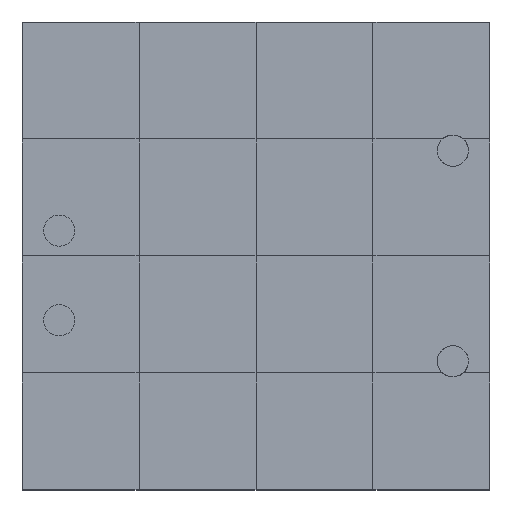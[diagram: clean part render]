
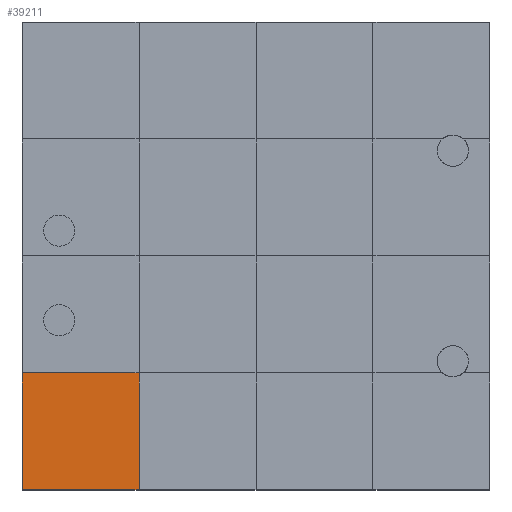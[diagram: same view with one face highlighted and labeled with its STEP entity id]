
A CAD part, top view. The second image highlights one B-rep face of the part: STEP entity #39211.
In plain terms, the highlighted planar face has unit normal (0, 0, 1).
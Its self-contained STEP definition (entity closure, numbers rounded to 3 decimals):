
#39022 = VERTEX_POINT('',#39023);
#39023 = CARTESIAN_POINT('',(0.,0.,1.5));
#39030 = PLANE('',#39031);
#39031 = AXIS2_PLACEMENT_3D('',#39032,#39033,#39034);
#39032 = CARTESIAN_POINT('',(0.,0.,0.));
#39033 = DIRECTION('',(1.,0.,-0.));
#39034 = DIRECTION('',(0.,0.,1.));
#39042 = PLANE('',#39043);
#39043 = AXIS2_PLACEMENT_3D('',#39044,#39045,#39046);
#39044 = CARTESIAN_POINT('',(0.,0.,0.));
#39045 = DIRECTION('',(-0.,1.,0.));
#39046 = DIRECTION('',(0.,0.,1.));
#39083 = VERTEX_POINT('',#39084);
#39084 = CARTESIAN_POINT('',(0.,3.,1.5));
#39110 = EDGE_CURVE('',#39022,#39083,#39111,.T.);
#39111 = SURFACE_CURVE('',#39112,(#39116,#39123),.PCURVE_S1.);
#39112 = LINE('',#39113,#39114);
#39113 = CARTESIAN_POINT('',(0.,0.,1.5));
#39114 = VECTOR('',#39115,1.);
#39115 = DIRECTION('',(-0.,1.,0.));
#39116 = PCURVE('',#39030,#39117);
#39117 = DEFINITIONAL_REPRESENTATION('',(#39118),#39122);
#39118 = LINE('',#39119,#39120);
#39119 = CARTESIAN_POINT('',(1.5,0.));
#39120 = VECTOR('',#39121,1.);
#39121 = DIRECTION('',(0.,-1.));
#39122 = ( GEOMETRIC_REPRESENTATION_CONTEXT(2) 
PARAMETRIC_REPRESENTATION_CONTEXT() REPRESENTATION_CONTEXT('2D SPACE',''
  ) );
#39123 = PCURVE('',#39124,#39129);
#39124 = PLANE('',#39125);
#39125 = AXIS2_PLACEMENT_3D('',#39126,#39127,#39128);
#39126 = CARTESIAN_POINT('',(0.,0.,1.5));
#39127 = DIRECTION('',(0.,0.,1.));
#39128 = DIRECTION('',(1.,0.,-0.));
#39129 = DEFINITIONAL_REPRESENTATION('',(#39130),#39134);
#39130 = LINE('',#39131,#39132);
#39131 = CARTESIAN_POINT('',(0.,0.));
#39132 = VECTOR('',#39133,1.);
#39133 = DIRECTION('',(0.,1.));
#39134 = ( GEOMETRIC_REPRESENTATION_CONTEXT(2) 
PARAMETRIC_REPRESENTATION_CONTEXT() REPRESENTATION_CONTEXT('2D SPACE',''
  ) );
#39163 = EDGE_CURVE('',#39022,#39164,#39166,.T.);
#39164 = VERTEX_POINT('',#39165);
#39165 = CARTESIAN_POINT('',(3.,0.,1.5));
#39166 = SURFACE_CURVE('',#39167,(#39171,#39178),.PCURVE_S1.);
#39167 = LINE('',#39168,#39169);
#39168 = CARTESIAN_POINT('',(0.,0.,1.5));
#39169 = VECTOR('',#39170,1.);
#39170 = DIRECTION('',(1.,0.,-0.));
#39171 = PCURVE('',#39042,#39172);
#39172 = DEFINITIONAL_REPRESENTATION('',(#39173),#39177);
#39173 = LINE('',#39174,#39175);
#39174 = CARTESIAN_POINT('',(1.5,0.));
#39175 = VECTOR('',#39176,1.);
#39176 = DIRECTION('',(0.,1.));
#39177 = ( GEOMETRIC_REPRESENTATION_CONTEXT(2) 
PARAMETRIC_REPRESENTATION_CONTEXT() REPRESENTATION_CONTEXT('2D SPACE',''
  ) );
#39178 = PCURVE('',#39124,#39179);
#39179 = DEFINITIONAL_REPRESENTATION('',(#39180),#39184);
#39180 = LINE('',#39181,#39182);
#39181 = CARTESIAN_POINT('',(0.,0.));
#39182 = VECTOR('',#39183,1.);
#39183 = DIRECTION('',(1.,0.));
#39184 = ( GEOMETRIC_REPRESENTATION_CONTEXT(2) 
PARAMETRIC_REPRESENTATION_CONTEXT() REPRESENTATION_CONTEXT('2D SPACE',''
  ) );
#39211 = ADVANCED_FACE('',(#39212),#39124,.T.);
#39212 = FACE_BOUND('',#39213,.T.);
#39213 = EDGE_LOOP('',(#39214,#39215,#39216,#39244));
#39214 = ORIENTED_EDGE('',*,*,#39110,.F.);
#39215 = ORIENTED_EDGE('',*,*,#39163,.T.);
#39216 = ORIENTED_EDGE('',*,*,#39217,.T.);
#39217 = EDGE_CURVE('',#39164,#39218,#39220,.T.);
#39218 = VERTEX_POINT('',#39219);
#39219 = CARTESIAN_POINT('',(3.,3.,1.5));
#39220 = SURFACE_CURVE('',#39221,(#39225,#39232),.PCURVE_S1.);
#39221 = LINE('',#39222,#39223);
#39222 = CARTESIAN_POINT('',(3.,0.,1.5));
#39223 = VECTOR('',#39224,1.);
#39224 = DIRECTION('',(-0.,1.,0.));
#39225 = PCURVE('',#39124,#39226);
#39226 = DEFINITIONAL_REPRESENTATION('',(#39227),#39231);
#39227 = LINE('',#39228,#39229);
#39228 = CARTESIAN_POINT('',(3.,0.));
#39229 = VECTOR('',#39230,1.);
#39230 = DIRECTION('',(0.,1.));
#39231 = ( GEOMETRIC_REPRESENTATION_CONTEXT(2) 
PARAMETRIC_REPRESENTATION_CONTEXT() REPRESENTATION_CONTEXT('2D SPACE',''
  ) );
#39232 = PCURVE('',#39233,#39238);
#39233 = PLANE('',#39234);
#39234 = AXIS2_PLACEMENT_3D('',#39235,#39236,#39237);
#39235 = CARTESIAN_POINT('',(3.,0.,1.5));
#39236 = DIRECTION('',(0.,0.,1.));
#39237 = DIRECTION('',(1.,0.,-0.));
#39238 = DEFINITIONAL_REPRESENTATION('',(#39239),#39243);
#39239 = LINE('',#39240,#39241);
#39240 = CARTESIAN_POINT('',(0.,0.));
#39241 = VECTOR('',#39242,1.);
#39242 = DIRECTION('',(0.,1.));
#39243 = ( GEOMETRIC_REPRESENTATION_CONTEXT(2) 
PARAMETRIC_REPRESENTATION_CONTEXT() REPRESENTATION_CONTEXT('2D SPACE',''
  ) );
#39244 = ORIENTED_EDGE('',*,*,#39245,.F.);
#39245 = EDGE_CURVE('',#39083,#39218,#39246,.T.);
#39246 = SURFACE_CURVE('',#39247,(#39251,#39258),.PCURVE_S1.);
#39247 = LINE('',#39248,#39249);
#39248 = CARTESIAN_POINT('',(0.,3.,1.5));
#39249 = VECTOR('',#39250,1.);
#39250 = DIRECTION('',(1.,0.,-0.));
#39251 = PCURVE('',#39124,#39252);
#39252 = DEFINITIONAL_REPRESENTATION('',(#39253),#39257);
#39253 = LINE('',#39254,#39255);
#39254 = CARTESIAN_POINT('',(0.,3.));
#39255 = VECTOR('',#39256,1.);
#39256 = DIRECTION('',(1.,0.));
#39257 = ( GEOMETRIC_REPRESENTATION_CONTEXT(2) 
PARAMETRIC_REPRESENTATION_CONTEXT() REPRESENTATION_CONTEXT('2D SPACE',''
  ) );
#39258 = PCURVE('',#39259,#39264);
#39259 = PLANE('',#39260);
#39260 = AXIS2_PLACEMENT_3D('',#39261,#39262,#39263);
#39261 = CARTESIAN_POINT('',(0.,3.,1.5));
#39262 = DIRECTION('',(0.,0.,1.));
#39263 = DIRECTION('',(1.,0.,-0.));
#39264 = DEFINITIONAL_REPRESENTATION('',(#39265),#39269);
#39265 = LINE('',#39266,#39267);
#39266 = CARTESIAN_POINT('',(0.,0.));
#39267 = VECTOR('',#39268,1.);
#39268 = DIRECTION('',(1.,0.));
#39269 = ( GEOMETRIC_REPRESENTATION_CONTEXT(2) 
PARAMETRIC_REPRESENTATION_CONTEXT() REPRESENTATION_CONTEXT('2D SPACE',''
  ) );
